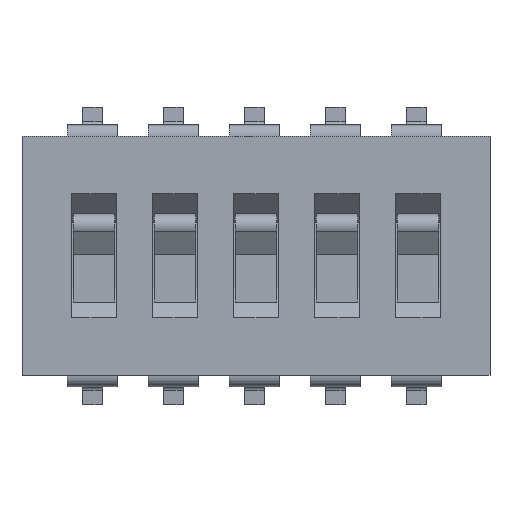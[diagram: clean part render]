
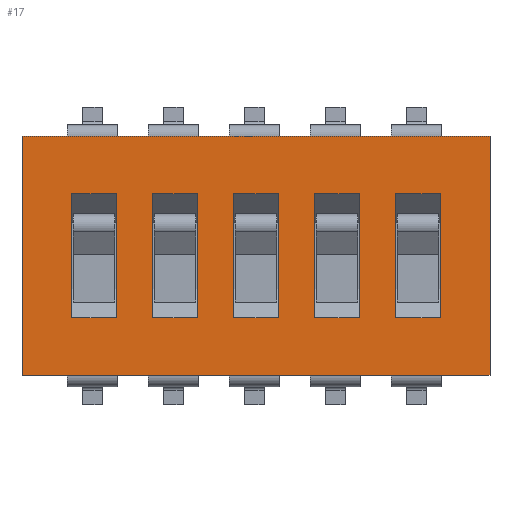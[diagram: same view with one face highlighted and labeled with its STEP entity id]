
A CAD part, top view. The second image highlights one B-rep face of the part: STEP entity #17.
In plain terms, the highlighted planar face has unit normal (0, 0, 1).
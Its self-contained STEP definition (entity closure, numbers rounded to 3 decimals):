
#17 = ADVANCED_FACE('',(#18,#52,#86,#120,#154,#188),#222,.T.);
#18 = FACE_BOUND('',#19,.F.);
#19 = EDGE_LOOP('',(#20,#30,#38,#46));
#20 = ORIENTED_EDGE('',*,*,#21,.F.);
#21 = EDGE_CURVE('',#22,#24,#26,.T.);
#22 = VERTEX_POINT('',#23);
#23 = CARTESIAN_POINT('',(-7.34,3.75,0.));
#24 = VERTEX_POINT('',#25);
#25 = CARTESIAN_POINT('',(-7.34,-3.75,0.));
#26 = LINE('',#27,#28);
#27 = CARTESIAN_POINT('',(-7.34,3.75,0.));
#28 = VECTOR('',#29,1.);
#29 = DIRECTION('',(0.,-1.,0.));
#30 = ORIENTED_EDGE('',*,*,#31,.F.);
#31 = EDGE_CURVE('',#32,#22,#34,.T.);
#32 = VERTEX_POINT('',#33);
#33 = CARTESIAN_POINT('',(7.34,3.75,0.));
#34 = LINE('',#35,#36);
#35 = CARTESIAN_POINT('',(7.34,3.75,0.));
#36 = VECTOR('',#37,1.);
#37 = DIRECTION('',(-1.,0.,0.));
#38 = ORIENTED_EDGE('',*,*,#39,.F.);
#39 = EDGE_CURVE('',#40,#32,#42,.T.);
#40 = VERTEX_POINT('',#41);
#41 = CARTESIAN_POINT('',(7.34,-3.75,0.));
#42 = LINE('',#43,#44);
#43 = CARTESIAN_POINT('',(7.34,-3.75,0.));
#44 = VECTOR('',#45,1.);
#45 = DIRECTION('',(0.,1.,0.));
#46 = ORIENTED_EDGE('',*,*,#47,.F.);
#47 = EDGE_CURVE('',#24,#40,#48,.T.);
#48 = LINE('',#49,#50);
#49 = CARTESIAN_POINT('',(-7.34,-3.75,0.));
#50 = VECTOR('',#51,1.);
#51 = DIRECTION('',(1.,0.,0.));
#52 = FACE_BOUND('',#53,.F.);
#53 = EDGE_LOOP('',(#54,#64,#72,#80));
#54 = ORIENTED_EDGE('',*,*,#55,.F.);
#55 = EDGE_CURVE('',#56,#58,#60,.T.);
#56 = VERTEX_POINT('',#57);
#57 = CARTESIAN_POINT('',(-5.78,1.95,0.));
#58 = VERTEX_POINT('',#59);
#59 = CARTESIAN_POINT('',(-4.38,1.95,0.));
#60 = LINE('',#61,#62);
#61 = CARTESIAN_POINT('',(-5.78,1.95,0.));
#62 = VECTOR('',#63,1.);
#63 = DIRECTION('',(1.,0.,0.));
#64 = ORIENTED_EDGE('',*,*,#65,.F.);
#65 = EDGE_CURVE('',#66,#56,#68,.T.);
#66 = VERTEX_POINT('',#67);
#67 = CARTESIAN_POINT('',(-5.78,-1.95,0.));
#68 = LINE('',#69,#70);
#69 = CARTESIAN_POINT('',(-5.78,-1.95,0.));
#70 = VECTOR('',#71,1.);
#71 = DIRECTION('',(0.,1.,0.));
#72 = ORIENTED_EDGE('',*,*,#73,.F.);
#73 = EDGE_CURVE('',#74,#66,#76,.T.);
#74 = VERTEX_POINT('',#75);
#75 = CARTESIAN_POINT('',(-4.38,-1.95,0.));
#76 = LINE('',#77,#78);
#77 = CARTESIAN_POINT('',(-4.38,-1.95,0.));
#78 = VECTOR('',#79,1.);
#79 = DIRECTION('',(-1.,0.,0.));
#80 = ORIENTED_EDGE('',*,*,#81,.F.);
#81 = EDGE_CURVE('',#58,#74,#82,.T.);
#82 = LINE('',#83,#84);
#83 = CARTESIAN_POINT('',(-4.38,1.95,0.));
#84 = VECTOR('',#85,1.);
#85 = DIRECTION('',(0.,-1.,0.));
#86 = FACE_BOUND('',#87,.F.);
#87 = EDGE_LOOP('',(#88,#98,#106,#114));
#88 = ORIENTED_EDGE('',*,*,#89,.F.);
#89 = EDGE_CURVE('',#90,#92,#94,.T.);
#90 = VERTEX_POINT('',#91);
#91 = CARTESIAN_POINT('',(-3.24,1.95,0.));
#92 = VERTEX_POINT('',#93);
#93 = CARTESIAN_POINT('',(-1.84,1.95,0.));
#94 = LINE('',#95,#96);
#95 = CARTESIAN_POINT('',(-3.24,1.95,0.));
#96 = VECTOR('',#97,1.);
#97 = DIRECTION('',(1.,0.,0.));
#98 = ORIENTED_EDGE('',*,*,#99,.F.);
#99 = EDGE_CURVE('',#100,#90,#102,.T.);
#100 = VERTEX_POINT('',#101);
#101 = CARTESIAN_POINT('',(-3.24,-1.95,0.));
#102 = LINE('',#103,#104);
#103 = CARTESIAN_POINT('',(-3.24,-1.95,0.));
#104 = VECTOR('',#105,1.);
#105 = DIRECTION('',(0.,1.,0.));
#106 = ORIENTED_EDGE('',*,*,#107,.F.);
#107 = EDGE_CURVE('',#108,#100,#110,.T.);
#108 = VERTEX_POINT('',#109);
#109 = CARTESIAN_POINT('',(-1.84,-1.95,0.));
#110 = LINE('',#111,#112);
#111 = CARTESIAN_POINT('',(-1.84,-1.95,0.));
#112 = VECTOR('',#113,1.);
#113 = DIRECTION('',(-1.,0.,0.));
#114 = ORIENTED_EDGE('',*,*,#115,.F.);
#115 = EDGE_CURVE('',#92,#108,#116,.T.);
#116 = LINE('',#117,#118);
#117 = CARTESIAN_POINT('',(-1.84,1.95,0.));
#118 = VECTOR('',#119,1.);
#119 = DIRECTION('',(0.,-1.,0.));
#120 = FACE_BOUND('',#121,.F.);
#121 = EDGE_LOOP('',(#122,#132,#140,#148));
#122 = ORIENTED_EDGE('',*,*,#123,.F.);
#123 = EDGE_CURVE('',#124,#126,#128,.T.);
#124 = VERTEX_POINT('',#125);
#125 = CARTESIAN_POINT('',(-0.7,1.95,0.));
#126 = VERTEX_POINT('',#127);
#127 = CARTESIAN_POINT('',(0.7,1.95,0.));
#128 = LINE('',#129,#130);
#129 = CARTESIAN_POINT('',(-0.7,1.95,0.));
#130 = VECTOR('',#131,1.);
#131 = DIRECTION('',(1.,0.,0.));
#132 = ORIENTED_EDGE('',*,*,#133,.F.);
#133 = EDGE_CURVE('',#134,#124,#136,.T.);
#134 = VERTEX_POINT('',#135);
#135 = CARTESIAN_POINT('',(-0.7,-1.95,0.));
#136 = LINE('',#137,#138);
#137 = CARTESIAN_POINT('',(-0.7,-1.95,0.));
#138 = VECTOR('',#139,1.);
#139 = DIRECTION('',(0.,1.,0.));
#140 = ORIENTED_EDGE('',*,*,#141,.F.);
#141 = EDGE_CURVE('',#142,#134,#144,.T.);
#142 = VERTEX_POINT('',#143);
#143 = CARTESIAN_POINT('',(0.7,-1.95,0.));
#144 = LINE('',#145,#146);
#145 = CARTESIAN_POINT('',(0.7,-1.95,0.));
#146 = VECTOR('',#147,1.);
#147 = DIRECTION('',(-1.,0.,0.));
#148 = ORIENTED_EDGE('',*,*,#149,.F.);
#149 = EDGE_CURVE('',#126,#142,#150,.T.);
#150 = LINE('',#151,#152);
#151 = CARTESIAN_POINT('',(0.7,1.95,0.));
#152 = VECTOR('',#153,1.);
#153 = DIRECTION('',(0.,-1.,0.));
#154 = FACE_BOUND('',#155,.F.);
#155 = EDGE_LOOP('',(#156,#166,#174,#182));
#156 = ORIENTED_EDGE('',*,*,#157,.F.);
#157 = EDGE_CURVE('',#158,#160,#162,.T.);
#158 = VERTEX_POINT('',#159);
#159 = CARTESIAN_POINT('',(1.84,1.95,0.));
#160 = VERTEX_POINT('',#161);
#161 = CARTESIAN_POINT('',(3.24,1.95,0.));
#162 = LINE('',#163,#164);
#163 = CARTESIAN_POINT('',(1.84,1.95,0.));
#164 = VECTOR('',#165,1.);
#165 = DIRECTION('',(1.,0.,0.));
#166 = ORIENTED_EDGE('',*,*,#167,.F.);
#167 = EDGE_CURVE('',#168,#158,#170,.T.);
#168 = VERTEX_POINT('',#169);
#169 = CARTESIAN_POINT('',(1.84,-1.95,0.));
#170 = LINE('',#171,#172);
#171 = CARTESIAN_POINT('',(1.84,-1.95,0.));
#172 = VECTOR('',#173,1.);
#173 = DIRECTION('',(0.,1.,0.));
#174 = ORIENTED_EDGE('',*,*,#175,.F.);
#175 = EDGE_CURVE('',#176,#168,#178,.T.);
#176 = VERTEX_POINT('',#177);
#177 = CARTESIAN_POINT('',(3.24,-1.95,0.));
#178 = LINE('',#179,#180);
#179 = CARTESIAN_POINT('',(3.24,-1.95,0.));
#180 = VECTOR('',#181,1.);
#181 = DIRECTION('',(-1.,0.,0.));
#182 = ORIENTED_EDGE('',*,*,#183,.F.);
#183 = EDGE_CURVE('',#160,#176,#184,.T.);
#184 = LINE('',#185,#186);
#185 = CARTESIAN_POINT('',(3.24,1.95,0.));
#186 = VECTOR('',#187,1.);
#187 = DIRECTION('',(0.,-1.,0.));
#188 = FACE_BOUND('',#189,.F.);
#189 = EDGE_LOOP('',(#190,#200,#208,#216));
#190 = ORIENTED_EDGE('',*,*,#191,.F.);
#191 = EDGE_CURVE('',#192,#194,#196,.T.);
#192 = VERTEX_POINT('',#193);
#193 = CARTESIAN_POINT('',(4.38,1.95,0.));
#194 = VERTEX_POINT('',#195);
#195 = CARTESIAN_POINT('',(5.78,1.95,0.));
#196 = LINE('',#197,#198);
#197 = CARTESIAN_POINT('',(4.38,1.95,0.));
#198 = VECTOR('',#199,1.);
#199 = DIRECTION('',(1.,0.,0.));
#200 = ORIENTED_EDGE('',*,*,#201,.F.);
#201 = EDGE_CURVE('',#202,#192,#204,.T.);
#202 = VERTEX_POINT('',#203);
#203 = CARTESIAN_POINT('',(4.38,-1.95,0.));
#204 = LINE('',#205,#206);
#205 = CARTESIAN_POINT('',(4.38,-1.95,0.));
#206 = VECTOR('',#207,1.);
#207 = DIRECTION('',(0.,1.,0.));
#208 = ORIENTED_EDGE('',*,*,#209,.F.);
#209 = EDGE_CURVE('',#210,#202,#212,.T.);
#210 = VERTEX_POINT('',#211);
#211 = CARTESIAN_POINT('',(5.78,-1.95,0.));
#212 = LINE('',#213,#214);
#213 = CARTESIAN_POINT('',(5.78,-1.95,0.));
#214 = VECTOR('',#215,1.);
#215 = DIRECTION('',(-1.,0.,0.));
#216 = ORIENTED_EDGE('',*,*,#217,.F.);
#217 = EDGE_CURVE('',#194,#210,#218,.T.);
#218 = LINE('',#219,#220);
#219 = CARTESIAN_POINT('',(5.78,1.95,0.));
#220 = VECTOR('',#221,1.);
#221 = DIRECTION('',(0.,-1.,0.));
#222 = PLANE('',#223);
#223 = AXIS2_PLACEMENT_3D('',#224,#225,#226);
#224 = CARTESIAN_POINT('',(0.,0.,0.));
#225 = DIRECTION('',(0.,0.,1.));
#226 = DIRECTION('',(1.,0.,-0.));
